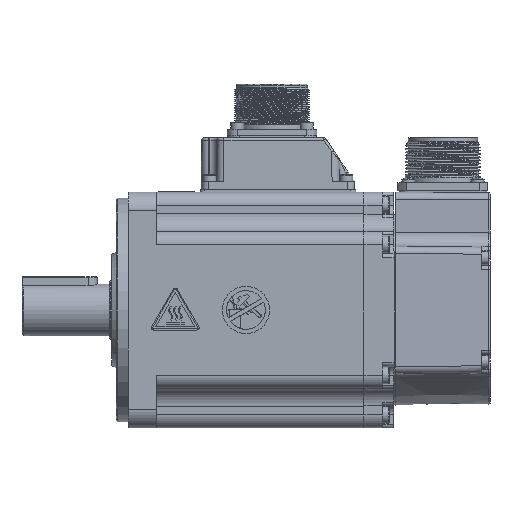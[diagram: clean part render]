
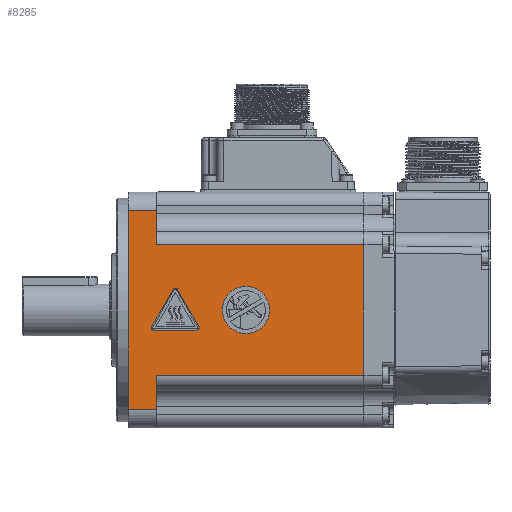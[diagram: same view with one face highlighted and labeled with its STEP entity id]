
A CAD part, front view. The second image highlights one B-rep face of the part: STEP entity #8285.
In plain terms, the highlighted planar face has unit normal (0, -1, 0) as drawn and (1, 0, 0) by its records, which use the part's own axes.
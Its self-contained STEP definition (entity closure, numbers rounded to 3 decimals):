
#8285 = ADVANCED_FACE( '', ( #16816 ), #16817, .T. );
#16816 = FACE_OUTER_BOUND( '', #33891, .T. );
#16817 = PLANE( '', #33892 );
#33891 = EDGE_LOOP( '', ( #56383, #56384, #56385, #56386, #56387, #56388, #56389, #56390 ) );
#33892 = AXIS2_PLACEMENT_3D( '', #56391, #56392, #56393 );
#56383 = ORIENTED_EDGE( '', *, *, #61677, .F. );
#56384 = ORIENTED_EDGE( '', *, *, #66615, .T. );
#56385 = ORIENTED_EDGE( '', *, *, #60054, .F. );
#56386 = ORIENTED_EDGE( '', *, *, #65375, .T. );
#56387 = ORIENTED_EDGE( '', *, *, #60810, .T. );
#56388 = ORIENTED_EDGE( '', *, *, #60644, .T. );
#56389 = ORIENTED_EDGE( '', *, *, #59174, .F. );
#56390 = ORIENTED_EDGE( '', *, *, #63155, .T. );
#56391 = CARTESIAN_POINT( '', ( 50., 260.892, -50. ) );
#56392 = DIRECTION( '', ( 1., 0., 0. ) );
#56393 = DIRECTION( '', ( 0., 1., 0. ) );
#59174 = EDGE_CURVE( '', #68588, #68589, #68590, .T. );
#60054 = EDGE_CURVE( '', #70123, #70125, #70126, .T. );
#60644 = EDGE_CURVE( '', #71143, #68589, #71144, .F. );
#60810 = EDGE_CURVE( '', #71416, #71143, #71417, .T. );
#61677 = EDGE_CURVE( '', #72848, #72850, #72851, .T. );
#63155 = EDGE_CURVE( '', #68588, #72850, #75065, .T. );
#65375 = EDGE_CURVE( '', #70123, #71416, #78062, .T. );
#66615 = EDGE_CURVE( '', #72848, #70125, #79471, .T. );
#68588 = VERTEX_POINT( '', #81892 );
#68589 = VERTEX_POINT( '', #81893 );
#68590 = LINE( '', #81894, #81895 );
#70123 = VERTEX_POINT( '', #84657 );
#70125 = VERTEX_POINT( '', #84659 );
#70126 = LINE( '', #84660, #84661 );
#71143 = VERTEX_POINT( '', #86498 );
#71144 = LINE( '', #86499, #86500 );
#71416 = VERTEX_POINT( '', #87139 );
#71417 = LINE( '', #87140, #87141 );
#72848 = VERTEX_POINT( '', #92736 );
#72850 = VERTEX_POINT( '', #92738 );
#72851 = LINE( '', #92739, #92740 );
#75065 = LINE( '', #96889, #96890 );
#78062 = LINE( '', #102936, #102937 );
#79471 = LINE( '', #105697, #105698 );
#81892 = CARTESIAN_POINT( '', ( 50., 13., -27.75 ) );
#81893 = CARTESIAN_POINT( '', ( 50., 13., -42. ) );
#81894 = CARTESIAN_POINT( '', ( 50., 13., -50. ) );
#81895 = VECTOR( '', #107022, 1000. );
#84657 = CARTESIAN_POINT( '', ( 50., 13., 42. ) );
#84659 = CARTESIAN_POINT( '', ( 50., 13., 27.75 ) );
#84660 = CARTESIAN_POINT( '', ( 50., 13., -50. ) );
#84661 = VECTOR( '', #108048, 1000. );
#86498 = CARTESIAN_POINT( '', ( 50., 1., -42. ) );
#86499 = CARTESIAN_POINT( '', ( 50., 260.892, -42. ) );
#86500 = VECTOR( '', #108657, 1000. );
#87139 = CARTESIAN_POINT( '', ( 50., 1., 42. ) );
#87140 = CARTESIAN_POINT( '', ( 50., 1., -50. ) );
#87141 = VECTOR( '', #108863, 1000. );
#92736 = CARTESIAN_POINT( '', ( 50., 101., 27.75 ) );
#92738 = CARTESIAN_POINT( '', ( 50., 101., -27.75 ) );
#92739 = CARTESIAN_POINT( '', ( 50., 101., -50. ) );
#92740 = VECTOR( '', #109863, 1000. );
#96889 = CARTESIAN_POINT( '', ( 50., 260.892, -27.75 ) );
#96890 = VECTOR( '', #111481, 1000. );
#102936 = CARTESIAN_POINT( '', ( 50., 260.892, 42. ) );
#102937 = VECTOR( '', #113501, 1000. );
#105697 = CARTESIAN_POINT( '', ( 50., 260.892, 27.75 ) );
#105698 = VECTOR( '', #114367, 1000. );
#107022 = DIRECTION( '', ( 0., 0., -1. ) );
#108048 = DIRECTION( '', ( 0., 0., -1. ) );
#108657 = DIRECTION( '', ( 0., -1., 0. ) );
#108863 = DIRECTION( '', ( 0., 0., -1. ) );
#109863 = DIRECTION( '', ( 0., 0., -1. ) );
#111481 = DIRECTION( '', ( 0., 1., 0. ) );
#113501 = DIRECTION( '', ( 0., -1., 0. ) );
#114367 = DIRECTION( '', ( 0., -1., 0. ) );
